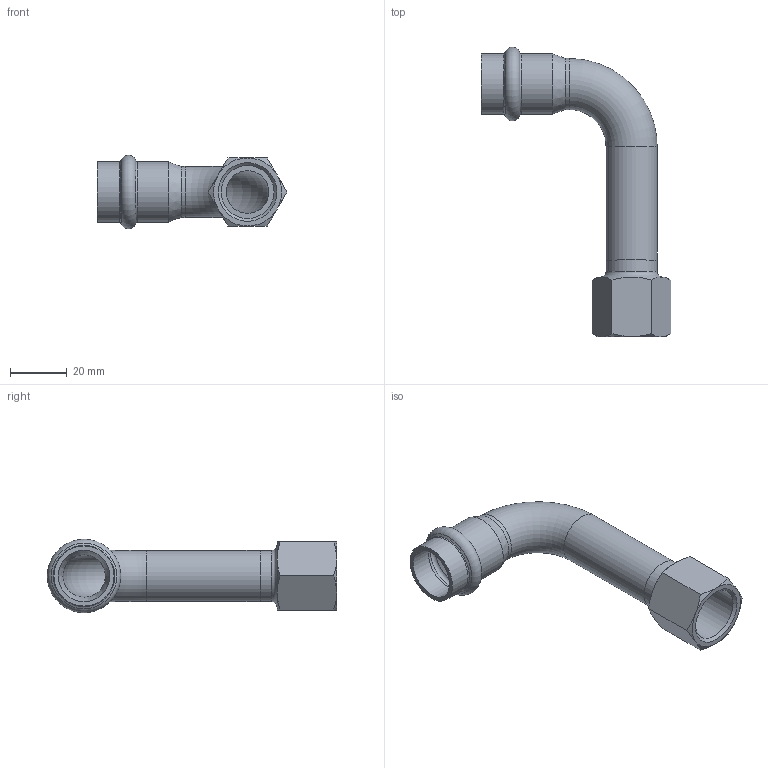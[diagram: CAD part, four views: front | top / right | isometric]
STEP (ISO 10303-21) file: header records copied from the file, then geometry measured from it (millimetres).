
FILE_DESCRIPTION((''),'2;1');
FILE_NAME('G:\Technics\CAD\Bauteile\018\69002G1812(1).stp','2008-01-31T09:25:29',('herberg'),(''),'Autodesk Inventor 2008','Autodesk Inventor 2008','');
FILE_SCHEMA(('AUTOMOTIVE_DESIGN { 1 0 10303 214 1 1 1 1 }'));
Length unit declared in the file: millimetre
Products named in the file (3): 69002G1812(1); 69001A18(1); IG1812(1)
Assembly tree (2 placements, depth 2):
  69002G1812(1)
    69001A18(1)
    IG1812(1)
Bounding box: 66.86 x 101.94 x 25.89 mm (x, y, z)
Volume: 14429.3 mm3; surface area: 16161.4 mm2
Topology: 2 solids, 2 shells, 49 faces, 104 edges, 61 vertices
Faces by surface type: cone 17, plane 11, cylinder 9, bspline 8, torus 4
Full cylindrical faces by diameter (mm): 15 x2, 18 x3, 18.15 x2, 21.15 x2
Entity records: 1404 total; most frequent: CARTESIAN_POINT 485, DIRECTION 182, ORIENTED_EDGE 144, AXIS2_PLACEMENT_3D 88, EDGE_LOOP 80, EDGE_CURVE 72, VERTEX_POINT 54, FACE_OUTER_BOUND 49
